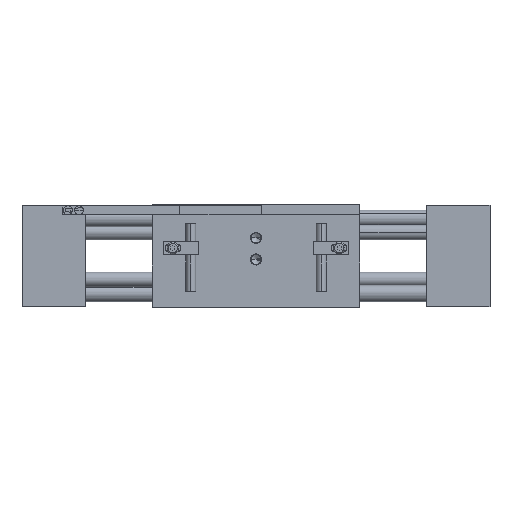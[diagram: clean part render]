
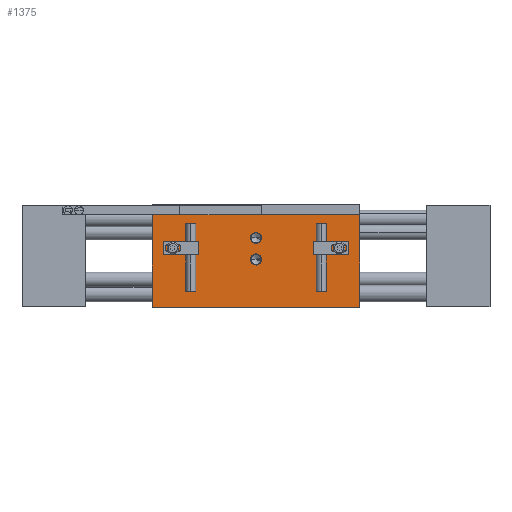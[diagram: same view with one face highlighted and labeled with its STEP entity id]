
A CAD part, top view. The second image highlights one B-rep face of the part: STEP entity #1375.
In plain terms, the highlighted planar face has unit normal (0, 0, 1).
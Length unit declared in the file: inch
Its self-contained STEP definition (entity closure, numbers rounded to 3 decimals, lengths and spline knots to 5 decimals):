
#88 = ORIENTED_EDGE ( 'NONE', *, *, #6436, .T. ) ;
#103 = CARTESIAN_POINT ( 'NONE',  ( -1.64, -0.8125, 0.625 ) ) ;
#128 = AXIS2_PLACEMENT_3D ( 'NONE', #3556, #7764, #5457 ) ;
#137 = LINE ( 'NONE', #3165, #4950 ) ;
#197 = DIRECTION ( 'NONE',  ( 0., 0., -1. ) ) ;
#262 = ORIENTED_EDGE ( 'NONE', *, *, #6468, .T. ) ;
#351 = DIRECTION ( 'NONE',  ( 1., 0., 0. ) ) ;
#482 = CARTESIAN_POINT ( 'NONE',  ( 1.64, -0.8125, 0.625 ) ) ;
#486 = VERTEX_POINT ( 'NONE', #7597 ) ;
#590 = LINE ( 'NONE', #6398, #5567 ) ;
#654 = FACE_OUTER_BOUND ( 'NONE', #4134, .T. ) ;
#698 = AXIS2_PLACEMENT_3D ( 'NONE', #2999, #197, #5814 ) ;
#719 = ORIENTED_EDGE ( 'NONE', *, *, #3475, .T. ) ;
#959 = PLANE ( 'NONE',  #4554 ) ;
#1107 = DIRECTION ( 'NONE',  ( 0., -1., 0. ) ) ;
#1158 = LINE ( 'NONE', #7205, #2624 ) ;
#1259 = VERTEX_POINT ( 'NONE', #2062 ) ;
#1278 = AXIS2_PLACEMENT_3D ( 'NONE', #6064, #1720, #8045 ) ;
#1375 = ADVANCED_FACE ( 'NONE', ( #5833, #3985, #654 ), #959, .T. ) ;
#1479 = CARTESIAN_POINT ( 'NONE',  ( -1.64, -0.8125, 0.625 ) ) ;
#1481 = EDGE_CURVE ( 'NONE', #3387, #7123, #5448, .T. ) ;
#1591 = CARTESIAN_POINT ( 'NONE',  ( 0., 0.285, 0.625 ) ) ;
#1720 = DIRECTION ( 'NONE',  ( 0., 0., -1. ) ) ;
#1814 = ORIENTED_EDGE ( 'NONE', *, *, #2049, .T. ) ;
#1880 = DIRECTION ( 'NONE',  ( 0., 0., -1. ) ) ;
#1942 = CARTESIAN_POINT ( 'NONE',  ( -0.39, 0.6525, 0.625 ) ) ;
#1952 = LINE ( 'NONE', #1479, #5093 ) ;
#2049 = EDGE_CURVE ( 'NONE', #1259, #5290, #7608, .T. ) ;
#2062 = CARTESIAN_POINT ( 'NONE',  ( 0.0895, -0.055, 0.625 ) ) ;
#2250 = ORIENTED_EDGE ( 'NONE', *, *, #5578, .T. ) ;
#2353 = EDGE_LOOP ( 'NONE', ( #88, #3581 ) ) ;
#2364 = DIRECTION ( 'NONE',  ( 1., 0., 0. ) ) ;
#2624 = VECTOR ( 'NONE', #3919, 39.37008 ) ;
#2999 = CARTESIAN_POINT ( 'NONE',  ( 0., -0.055, 0.625 ) ) ;
#3010 = EDGE_CURVE ( 'NONE', #486, #6728, #8071, .T. ) ;
#3165 = CARTESIAN_POINT ( 'NONE',  ( -0.39, 0.6525, 0.625 ) ) ;
#3320 = CARTESIAN_POINT ( 'NONE',  ( -1.64, 0.8125, 0.625 ) ) ;
#3387 = VERTEX_POINT ( 'NONE', #5852 ) ;
#3475 = EDGE_CURVE ( 'NONE', #6880, #486, #1952, .T. ) ;
#3556 = CARTESIAN_POINT ( 'NONE',  ( 0., -0.055, 0.625 ) ) ;
#3581 = ORIENTED_EDGE ( 'NONE', *, *, #1481, .T. ) ;
#3869 = VECTOR ( 'NONE', #1107, 39.37008 ) ;
#3919 = DIRECTION ( 'NONE',  ( 0., -1., 0. ) ) ;
#3985 = FACE_BOUND ( 'NONE', #2353, .T. ) ;
#4043 = CARTESIAN_POINT ( 'NONE',  ( -1.64, 0.8125, 0.625 ) ) ;
#4120 = CIRCLE ( 'NONE', #1278, 0.0895 ) ;
#4134 = EDGE_LOOP ( 'NONE', ( #6038, #5409, #262, #2250, #719, #7545 ) ) ;
#4437 = CARTESIAN_POINT ( 'NONE',  ( 1.64, 0.6525, 0.625 ) ) ;
#4488 = DIRECTION ( 'NONE',  ( 0., 0., 1. ) ) ;
#4554 = AXIS2_PLACEMENT_3D ( 'NONE', #6454, #4488, #5016 ) ;
#4594 = EDGE_LOOP ( 'NONE', ( #1814, #6491 ) ) ;
#4950 = VECTOR ( 'NONE', #7101, 39.37008 ) ;
#5016 = DIRECTION ( 'NONE',  ( 1., 0., 0. ) ) ;
#5093 = VECTOR ( 'NONE', #351, 39.37008 ) ;
#5290 = VERTEX_POINT ( 'NONE', #5666 ) ;
#5391 = DIRECTION ( 'NONE',  ( -1., 0., 0. ) ) ;
#5409 = ORIENTED_EDGE ( 'NONE', *, *, #6945, .F. ) ;
#5448 = CIRCLE ( 'NONE', #6685, 0.0895 ) ;
#5457 = DIRECTION ( 'NONE',  ( 1., 0., 0. ) ) ;
#5567 = VECTOR ( 'NONE', #5391, 39.37008 ) ;
#5575 = EDGE_CURVE ( 'NONE', #6101, #6728, #137, .T. ) ;
#5578 = EDGE_CURVE ( 'NONE', #7698, #6880, #6415, .T. ) ;
#5666 = CARTESIAN_POINT ( 'NONE',  ( -0.0895, -0.055, 0.625 ) ) ;
#5814 = DIRECTION ( 'NONE',  ( 1., 0., 0. ) ) ;
#5833 = FACE_BOUND ( 'NONE', #4594, .T. ) ;
#5852 = CARTESIAN_POINT ( 'NONE',  ( -0.0895, 0.285, 0.625 ) ) ;
#5962 = CIRCLE ( 'NONE', #128, 0.0895 ) ;
#6038 = ORIENTED_EDGE ( 'NONE', *, *, #5575, .F. ) ;
#6064 = CARTESIAN_POINT ( 'NONE',  ( 0., 0.285, 0.625 ) ) ;
#6101 = VERTEX_POINT ( 'NONE', #1942 ) ;
#6338 = DIRECTION ( 'NONE',  ( 0., 1., 0. ) ) ;
#6391 = VECTOR ( 'NONE', #6338, 39.37008 ) ;
#6398 = CARTESIAN_POINT ( 'NONE',  ( 1.64, 0.8125, 0.625 ) ) ;
#6415 = LINE ( 'NONE', #3320, #3869 ) ;
#6436 = EDGE_CURVE ( 'NONE', #7123, #3387, #4120, .T. ) ;
#6454 = CARTESIAN_POINT ( 'NONE',  ( -1.64, -0.8125, 0.625 ) ) ;
#6468 = EDGE_CURVE ( 'NONE', #7830, #7698, #590, .T. ) ;
#6491 = ORIENTED_EDGE ( 'NONE', *, *, #6935, .T. ) ;
#6532 = CARTESIAN_POINT ( 'NONE',  ( 0.0895, 0.285, 0.625 ) ) ;
#6613 = CARTESIAN_POINT ( 'NONE',  ( -0.39, 0.8125, 0.625 ) ) ;
#6685 = AXIS2_PLACEMENT_3D ( 'NONE', #1591, #1880, #2364 ) ;
#6728 = VERTEX_POINT ( 'NONE', #4437 ) ;
#6880 = VERTEX_POINT ( 'NONE', #103 ) ;
#6935 = EDGE_CURVE ( 'NONE', #5290, #1259, #5962, .T. ) ;
#6945 = EDGE_CURVE ( 'NONE', #7830, #6101, #1158, .T. ) ;
#7101 = DIRECTION ( 'NONE',  ( 1., 0., 0. ) ) ;
#7123 = VERTEX_POINT ( 'NONE', #6532 ) ;
#7205 = CARTESIAN_POINT ( 'NONE',  ( -0.39, 0.8125, 0.625 ) ) ;
#7545 = ORIENTED_EDGE ( 'NONE', *, *, #3010, .T. ) ;
#7597 = CARTESIAN_POINT ( 'NONE',  ( 1.64, -0.8125, 0.625 ) ) ;
#7608 = CIRCLE ( 'NONE', #698, 0.0895 ) ;
#7698 = VERTEX_POINT ( 'NONE', #4043 ) ;
#7764 = DIRECTION ( 'NONE',  ( 0., 0., -1. ) ) ;
#7830 = VERTEX_POINT ( 'NONE', #6613 ) ;
#8045 = DIRECTION ( 'NONE',  ( 1., 0., 0. ) ) ;
#8071 = LINE ( 'NONE', #482, #6391 ) ;
